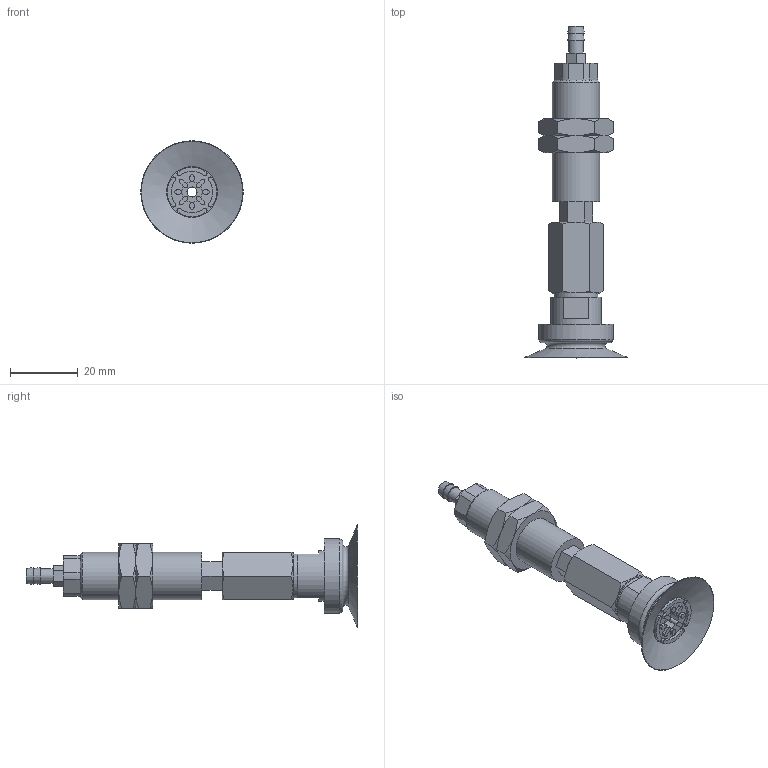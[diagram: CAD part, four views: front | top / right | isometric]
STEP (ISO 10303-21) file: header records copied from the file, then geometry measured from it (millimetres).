
FILE_DESCRIPTION(('STEP AP203'),'1');
FILE_NAME('-T.stp','2025-08-26T08:04:52',(' '),(' '),'Spatial InterOp 3D',' ',' ');
FILE_SCHEMA(('CONFIG_CONTROL_DESIGN'));
Length unit declared in the file: millimetre
Products named in the file (7): BNABPATH-30-6-※-T; ADAPTER; NAPATH-30-6--M; Nut-25-S; NAPATH-30-6--F; BPAG-30-※; T
Assembly tree (7 placements, depth 2):
  BNABPATH-30-6-※-T
    ADAPTER
    NAPATH-30-6--M
    Nut-25-S  x2
    NAPATH-30-6--F
    BPAG-30-※
    T
Bounding box: 30.3 x 98.2 x 30.3 mm (x, y, z)
Volume: 15570.6 mm3; surface area: 11846.2 mm2
Topology: 7 solids, 7 shells, 210 faces, 488 edges, 309 vertices
Faces by surface type: plane 101, cylinder 58, cone 49, torus 2
Full cylindrical faces by diameter (mm): 3 x4, 4.134 x1, 4.3 x1, 4.6 x1, 4.917 x1, 5 x1, 6 x1, 12.917 x2, 13 x1, 14 x1, 15 x1, 22 x1
Entity records: 5813 total; most frequent: CARTESIAN_POINT 1217, DIRECTION 915, ORIENTED_EDGE 816, EDGE_CURVE 408, AXIS2_PLACEMENT_3D 360, VERTEX_POINT 278, EDGE_LOOP 244, FACE_OUTER_BOUND 204
